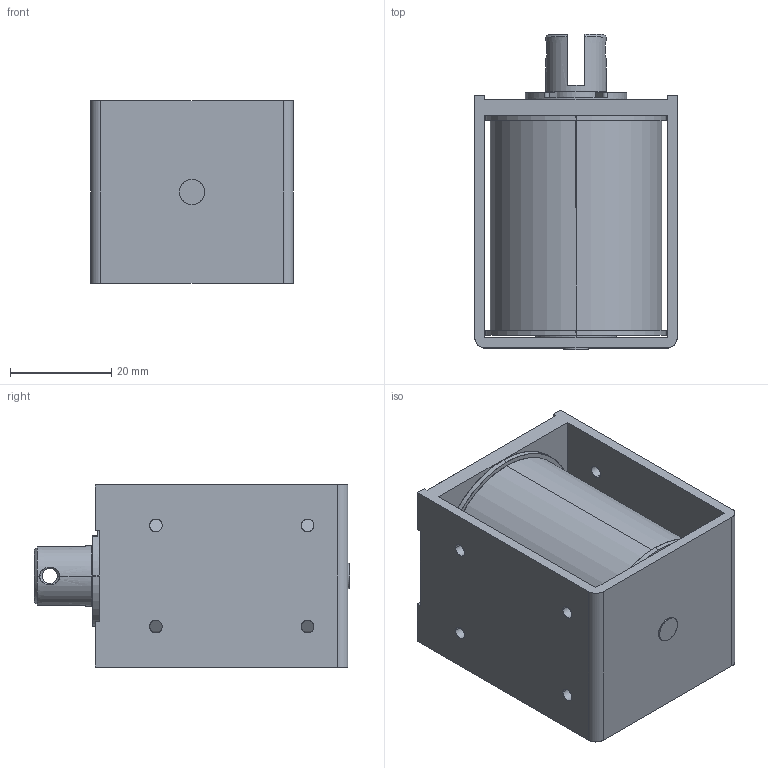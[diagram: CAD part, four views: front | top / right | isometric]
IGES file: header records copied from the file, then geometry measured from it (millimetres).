
Start section: SolidWorks IGES file using analytic representation for surfaces
Global section: file name: L:\カタログ\web用3Dデータ\CE1250\3D_CE1250\w_ce1250.IGS; native system: SolidWorks 2014; preprocessor: SolidWorks 2014; author: jiba; date: 140724.130942; units: millimetre
Bounding box: 40 x 62.3 x 36 mm (x, y, z)
Surface area: 21755.1 mm2 (no closed solid volume)
Topology: 0 solids, 0 shells, 120 faces, 2451 edges, 2451 vertices
Faces by surface type: revolution 66, bspline 54
